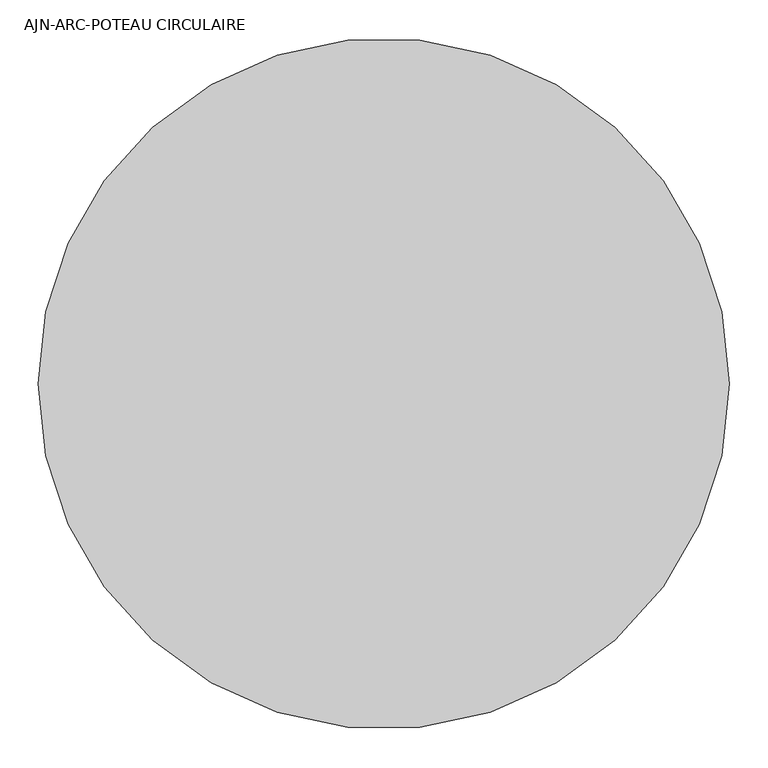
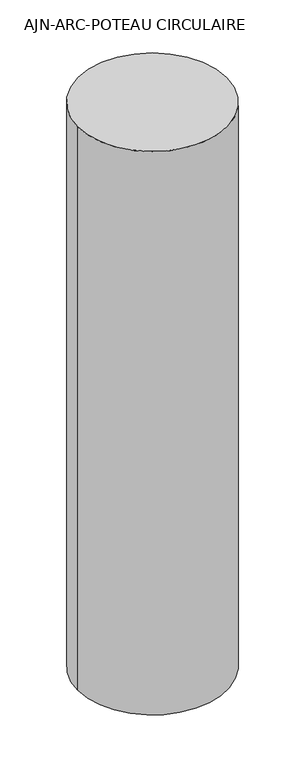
"""IFC4 building model written with IfcOpenShell, lengths in millimetres: column geometry, AJN-ARC-POTEAU CIRCULAIRE : ø90."""

from ifc_helpers import new_model, si_unit, point, frame, origin, origin_2d, place, context, project, spatial, circle_curve, trimmed, segment, composite_curve, outline, extrude, source, transform, mapped, element, save


def ajn_arc_poteau_circulaire_638d3540(model_context):
    return source(origin(), model_context, "Body", "SweptSolid", [
        extrude(outline(composite_curve([segment(trimmed(circle_curve(origin_2d(), 450.0), [point((-450.0, 0.0))], [point((450.0, 0.0))], False, "CARTESIAN"), True, "CONTINUOUS"), segment(trimmed(circle_curve(origin_2d(), 450.0), [point((450.0, 0.0))], [point((-450.0, 0.0))], False, "CARTESIAN"), True, "CONTINUOUS")], self_intersect=False)), frame((0.0, 0.0, 56799.9999686), z_axis=(0.0, 0.0, 1.0), x_axis=(1.0, 0.0, 0.0)), (0.0, 0.0, 1.0), 3600.0),
    ])


if __name__ == "__main__":
    model = new_model("IFC4")
    model_context = context("Model", 3, world=origin())
    ifc_project = project(units=[si_unit("LENGTHUNIT", "METRE", prefix="MILLI")], contexts=[model_context])
    site = spatial("IfcSite", under=ifc_project)
    building = spatial("IfcBuilding", under=site)
    placement = place(None, origin())
    ajn_arc_poteau_circulaire_shape = ajn_arc_poteau_circulaire_638d3540(model_context)
    element("IfcColumn", 1, ObjectType="AJN-ARC-POTEAU CIRCULAIRE : ø90", at=placement, inside=building, context=model_context, shape_type="MappedRepresentation", body=[
        mapped(ajn_arc_poteau_circulaire_shape, transform((0.0, 0.0, 0.0), x_axis=(1.0, 0.0, 0.0), y_axis=(0.0, 1.0, 0.0), z_axis=(0.0, 0.0, 1.0))),
    ])
    save(model, "model.ifc")
